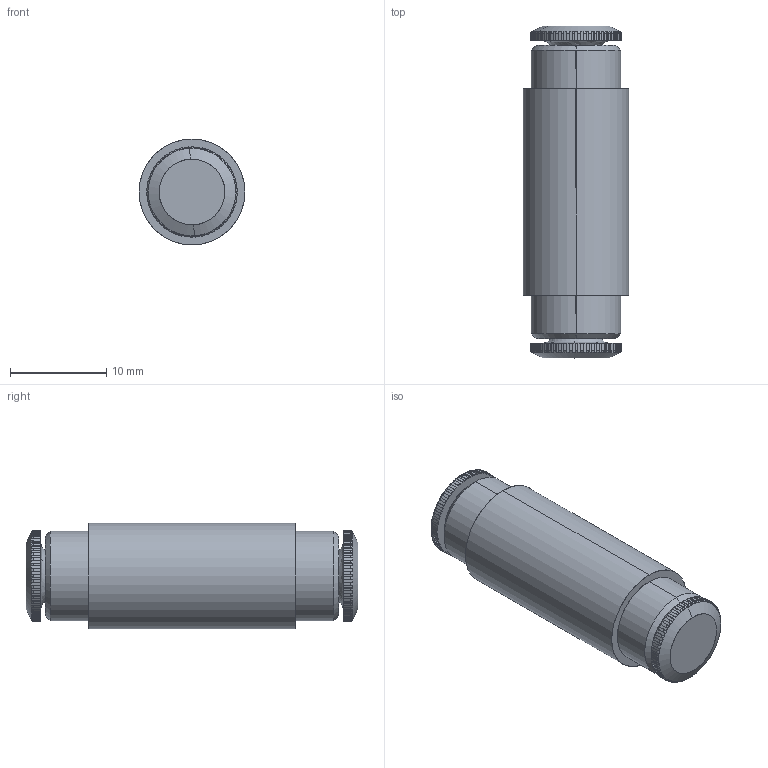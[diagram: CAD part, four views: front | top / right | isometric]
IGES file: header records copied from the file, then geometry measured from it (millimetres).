
Start section: SolidWorks IGES file using analytic representation for surfaces
Global section: file name: K:\Disegni Esecutivi\SERIE 58000\58040\58040_iges\5804000001A.igs; native system: SolidWorks 2011; preprocessor: SolidWorks 2011; author: cad05; date: 110302.111850; units: millimetre
Bounding box: 11 x 34.5 x 11 mm (x, y, z)
Surface area: 1442.9 mm2 (no closed solid volume)
Topology: 0 solids, 0 shells, 430 faces, 3076 edges, 3076 vertices
Faces by surface type: bspline 316, revolution 114
